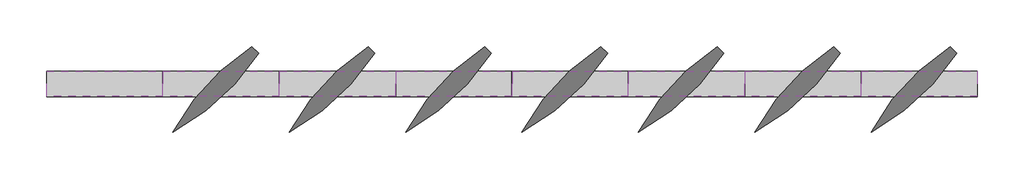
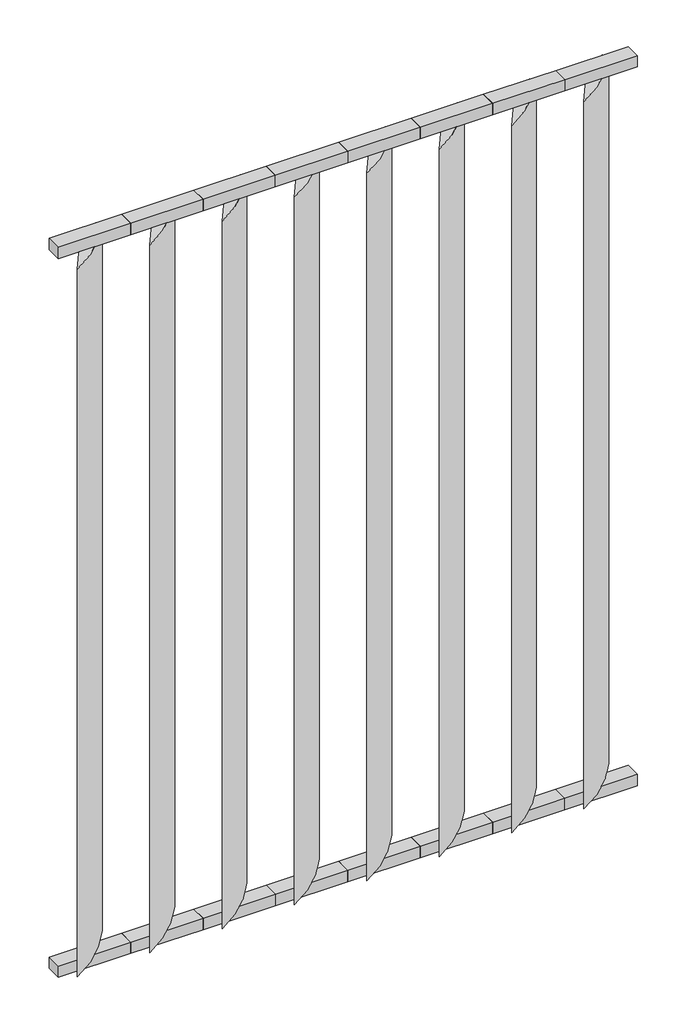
# One storey: 16 members, 8 plates.
"""IFC4 building model written with IfcOpenShell, lengths in millimetres."""

from ifc_helpers import new_model, si_unit, origin, place, context, project, spatial, transform, mapped, element, save
from components import rectangular_mullion_50mm_x_65mm_45a3edc2, rectangular_mullion_50mm_x_65mm_7b3be378, arq_painel_brise_vertical_arq_painel_brise_vertical_4deab555

model = new_model("IFC4")

# Units and contexts
model_context = context("Model", 3, world=origin())
ifc_project = project(units=[si_unit("LENGTHUNIT", "METRE", prefix="MILLI")], contexts=[model_context])

# Site, building, storey
site = spatial("IfcSite", under=ifc_project)
building = spatial("IfcBuilding", under=site)
storey = spatial("IfcBuildingStorey", under=building, Name="Nível 1", Elevation=0.0)

# Members
placement = place(None, origin())
rectangular_mullion_50mm_x_65mm_shape = rectangular_mullion_50mm_x_65mm_45a3edc2(model_context)
element("IfcMember", 1, ObjectType="Rectangular Mullion : 50mm x 65mm", at=placement, inside=storey, context=model_context, shape_type="MappedRepresentation", body=[
    mapped(rectangular_mullion_50mm_x_65mm_shape, transform((-4955.6871456, 179.8851347, 3200.0), x_axis=(0.0, 0.0, 1.0), y_axis=(0.0, 1.0, 0.0), z_axis=(-1.0, 0.0, 0.0))),
])
element("IfcMember", 2, ObjectType="Rectangular Mullion : 50mm x 65mm", at=placement, inside=storey, context=model_context, shape_type="MappedRepresentation", body=[
    mapped(rectangular_mullion_50mm_x_65mm_shape, transform((-2855.6871458, 179.8851347, 3200.0), x_axis=(0.0, 0.0, 1.0), y_axis=(0.0, 1.0, 0.0), z_axis=(-1.0, 0.0, 0.0))),
])
rectangular_mullion_50mm_x_65mm_2_shape = rectangular_mullion_50mm_x_65mm_7b3be378(model_context)
element("IfcMember", 3, ObjectType="Rectangular Mullion : 50mm x 65mm", at=placement, inside=storey, context=model_context, shape_type="MappedRepresentation", body=[
    mapped(rectangular_mullion_50mm_x_65mm_2_shape, transform((-3155.6871458, 179.8851347, 3200.0), x_axis=(0.0, 0.0, 1.0), y_axis=(0.0, 1.0, 0.0), z_axis=(-1.0, 0.0, 0.0))),
])
element("IfcMember", 4, ObjectType="Rectangular Mullion : 50mm x 65mm", at=placement, inside=storey, context=model_context, shape_type="MappedRepresentation", body=[
    mapped(rectangular_mullion_50mm_x_65mm_2_shape, transform((-3455.6871457, 179.8851347, 3200.0), x_axis=(0.0, 0.0, 1.0), y_axis=(0.0, 1.0, 0.0), z_axis=(-1.0, 0.0, 0.0))),
])
element("IfcMember", 5, ObjectType="Rectangular Mullion : 50mm x 65mm", at=placement, inside=storey, context=model_context, shape_type="MappedRepresentation", body=[
    mapped(rectangular_mullion_50mm_x_65mm_2_shape, transform((-3755.6871456, 179.8851347, 3200.0), x_axis=(0.0, 0.0, 1.0), y_axis=(0.0, 1.0, 0.0), z_axis=(-1.0, 0.0, 0.0))),
])
element("IfcMember", 6, ObjectType="Rectangular Mullion : 50mm x 65mm", at=placement, inside=storey, context=model_context, shape_type="MappedRepresentation", body=[
    mapped(rectangular_mullion_50mm_x_65mm_2_shape, transform((-4055.6871455, 179.8851347, 3200.0), x_axis=(0.0, 0.0, 1.0), y_axis=(0.0, 1.0, 0.0), z_axis=(-1.0, 0.0, 0.0))),
])
element("IfcMember", 7, ObjectType="Rectangular Mullion : 50mm x 65mm", at=placement, inside=storey, context=model_context, shape_type="MappedRepresentation", body=[
    mapped(rectangular_mullion_50mm_x_65mm_2_shape, transform((-4355.6871454, 179.8851347, 3200.0), x_axis=(0.0, 0.0, 1.0), y_axis=(0.0, 1.0, 0.0), z_axis=(-1.0, 0.0, 0.0))),
])
element("IfcMember", 8, ObjectType="Rectangular Mullion : 50mm x 65mm", at=placement, inside=storey, context=model_context, shape_type="MappedRepresentation", body=[
    mapped(rectangular_mullion_50mm_x_65mm_2_shape, transform((-4655.6871454, 179.8851347, 3200.0), x_axis=(0.0, 0.0, 1.0), y_axis=(0.0, 1.0, 0.0), z_axis=(-1.0, 0.0, 0.0))),
])
element("IfcMember", 9, ObjectType="Rectangular Mullion : 50mm x 65mm", at=placement, inside=storey, context=model_context, shape_type="MappedRepresentation", body=[
    mapped(rectangular_mullion_50mm_x_65mm_shape, transform((-2555.6871456, 179.8851347, 0.0), x_axis=(0.0, 0.0, -1.0), y_axis=(0.0, 1.0, 0.0), z_axis=(1.0, 0.0, 0.0))),
])
element("IfcMember", 10, ObjectType="Rectangular Mullion : 50mm x 65mm", at=placement, inside=storey, context=model_context, shape_type="MappedRepresentation", body=[
    mapped(rectangular_mullion_50mm_x_65mm_2_shape, transform((-2855.6871458, 179.8851347, 0.0), x_axis=(0.0, 0.0, -1.0), y_axis=(0.0, 1.0, 0.0), z_axis=(1.0, 0.0, 0.0))),
])
element("IfcMember", 11, ObjectType="Rectangular Mullion : 50mm x 65mm", at=placement, inside=storey, context=model_context, shape_type="MappedRepresentation", body=[
    mapped(rectangular_mullion_50mm_x_65mm_2_shape, transform((-3155.6871458, 179.8851347, 0.0), x_axis=(0.0, 0.0, -1.0), y_axis=(0.0, 1.0, 0.0), z_axis=(1.0, 0.0, 0.0))),
])
element("IfcMember", 12, ObjectType="Rectangular Mullion : 50mm x 65mm", at=placement, inside=storey, context=model_context, shape_type="MappedRepresentation", body=[
    mapped(rectangular_mullion_50mm_x_65mm_2_shape, transform((-3455.6871457, 179.8851347, 0.0), x_axis=(0.0, 0.0, -1.0), y_axis=(0.0, 1.0, 0.0), z_axis=(1.0, 0.0, 0.0))),
])
element("IfcMember", 13, ObjectType="Rectangular Mullion : 50mm x 65mm", at=placement, inside=storey, context=model_context, shape_type="MappedRepresentation", body=[
    mapped(rectangular_mullion_50mm_x_65mm_2_shape, transform((-3755.6871456, 179.8851347, 0.0), x_axis=(0.0, 0.0, -1.0), y_axis=(0.0, 1.0, 0.0), z_axis=(1.0, 0.0, 0.0))),
])
element("IfcMember", 14, ObjectType="Rectangular Mullion : 50mm x 65mm", at=placement, inside=storey, context=model_context, shape_type="MappedRepresentation", body=[
    mapped(rectangular_mullion_50mm_x_65mm_2_shape, transform((-4055.6871455, 179.8851347, 0.0), x_axis=(0.0, 0.0, -1.0), y_axis=(0.0, 1.0, 0.0), z_axis=(1.0, 0.0, 0.0))),
])
element("IfcMember", 15, ObjectType="Rectangular Mullion : 50mm x 65mm", at=placement, inside=storey, context=model_context, shape_type="MappedRepresentation", body=[
    mapped(rectangular_mullion_50mm_x_65mm_2_shape, transform((-4355.6871454, 179.8851347, 0.0), x_axis=(0.0, 0.0, -1.0), y_axis=(0.0, 1.0, 0.0), z_axis=(1.0, 0.0, 0.0))),
])
element("IfcMember", 16, ObjectType="Rectangular Mullion : 50mm x 65mm", at=placement, inside=storey, context=model_context, shape_type="MappedRepresentation", body=[
    mapped(rectangular_mullion_50mm_x_65mm_shape, transform((-4655.6871454, 179.8851347, 0.0), x_axis=(0.0, 0.0, -1.0), y_axis=(0.0, 1.0, 0.0), z_axis=(1.0, 0.0, 0.0))),
])

# Plates
arq_painel_brise_vertical_arq_painel_brise_vertical_shape = arq_painel_brise_vertical_arq_painel_brise_vertical_4deab555(model_context)
element("IfcPlate", 17, ObjectType="ARQ_Painel_Brise_Vertical : ARQ_Painel_Brise_Vertical", at=placement, inside=storey, context=model_context, shape_type="MappedRepresentation", body=[
    mapped(arq_painel_brise_vertical_arq_painel_brise_vertical_shape, transform((-2705.6871457, 179.8851347, 50.0), x_axis=(-1.0, 0.0, 0.0), y_axis=(0.0, -1.0, 0.0), z_axis=(0.0, 0.0, 1.0))),
])
element("IfcPlate", 18, ObjectType="ARQ_Painel_Brise_Vertical : ARQ_Painel_Brise_Vertical", at=placement, inside=storey, context=model_context, shape_type="MappedRepresentation", body=[
    mapped(arq_painel_brise_vertical_arq_painel_brise_vertical_shape, transform((-3005.6871458, 179.8851347, 50.0), x_axis=(-1.0, 0.0, 0.0), y_axis=(0.0, -1.0, 0.0), z_axis=(0.0, 0.0, 1.0))),
])
element("IfcPlate", 19, ObjectType="ARQ_Painel_Brise_Vertical : ARQ_Painel_Brise_Vertical", at=placement, inside=storey, context=model_context, shape_type="MappedRepresentation", body=[
    mapped(arq_painel_brise_vertical_arq_painel_brise_vertical_shape, transform((-3305.6871457, 179.8851347, 50.0), x_axis=(-1.0, 0.0, 0.0), y_axis=(0.0, -1.0, 0.0), z_axis=(0.0, 0.0, 1.0))),
])
element("IfcPlate", 20, ObjectType="ARQ_Painel_Brise_Vertical : ARQ_Painel_Brise_Vertical", at=placement, inside=storey, context=model_context, shape_type="MappedRepresentation", body=[
    mapped(arq_painel_brise_vertical_arq_painel_brise_vertical_shape, transform((-3605.6871456, 179.8851347, 50.0), x_axis=(-1.0, 0.0, 0.0), y_axis=(0.0, -1.0, 0.0), z_axis=(0.0, 0.0, 1.0))),
])
element("IfcPlate", 21, ObjectType="ARQ_Painel_Brise_Vertical : ARQ_Painel_Brise_Vertical", at=placement, inside=storey, context=model_context, shape_type="MappedRepresentation", body=[
    mapped(arq_painel_brise_vertical_arq_painel_brise_vertical_shape, transform((-3905.6871456, 179.8851347, 50.0), x_axis=(-1.0, 0.0, 0.0), y_axis=(0.0, -1.0, 0.0), z_axis=(0.0, 0.0, 1.0))),
])
element("IfcPlate", 22, ObjectType="ARQ_Painel_Brise_Vertical : ARQ_Painel_Brise_Vertical", at=placement, inside=storey, context=model_context, shape_type="MappedRepresentation", body=[
    mapped(arq_painel_brise_vertical_arq_painel_brise_vertical_shape, transform((-4205.6871455, 179.8851347, 50.0), x_axis=(-1.0, 0.0, 0.0), y_axis=(0.0, -1.0, 0.0), z_axis=(0.0, 0.0, 1.0))),
])
element("IfcPlate", 23, ObjectType="ARQ_Painel_Brise_Vertical : ARQ_Painel_Brise_Vertical", at=placement, inside=storey, context=model_context, shape_type="MappedRepresentation", body=[
    mapped(arq_painel_brise_vertical_arq_painel_brise_vertical_shape, transform((-4505.6871454, 179.8851347, 50.0), x_axis=(-1.0, 0.0, 0.0), y_axis=(0.0, -1.0, 0.0), z_axis=(0.0, 0.0, 1.0))),
])
element("IfcPlate", 24, ObjectType="ARQ_Painel_Brise_Vertical : ARQ_Painel_Brise_Vertical", at=placement, inside=storey, context=model_context, shape_type="MappedRepresentation", body=[
    mapped(arq_painel_brise_vertical_arq_painel_brise_vertical_shape, transform((-4805.6871455, 179.8851347, 50.0), x_axis=(-1.0, 0.0, 0.0), y_axis=(0.0, -1.0, 0.0), z_axis=(0.0, 0.0, 1.0))),
])

save(model, "model.ifc")
